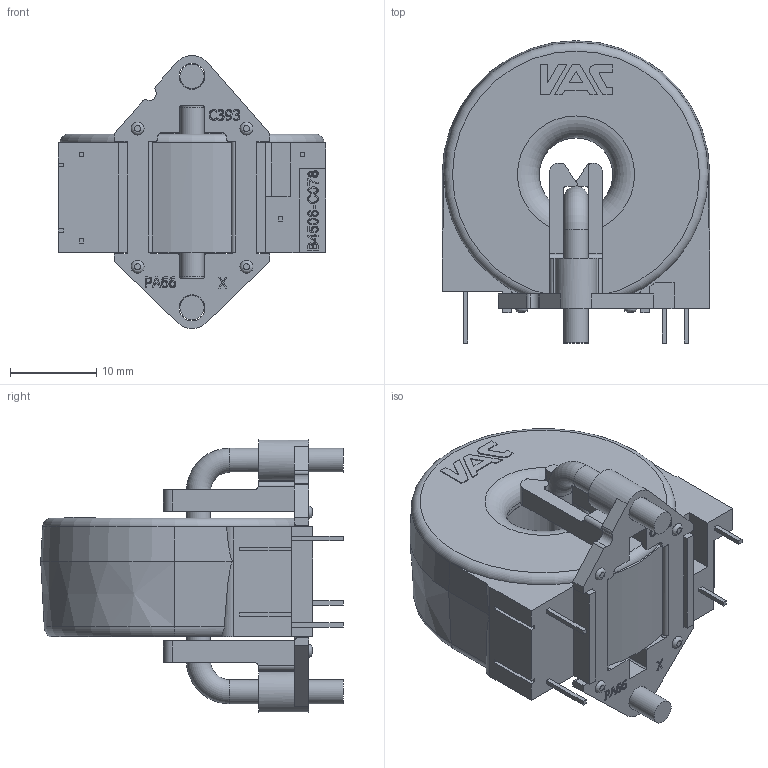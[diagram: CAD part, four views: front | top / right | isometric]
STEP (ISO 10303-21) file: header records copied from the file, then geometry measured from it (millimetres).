
FILE_DESCRIPTION(/* description */ (''),/* implementation_level */ '2;1');
FILE_NAME(/* name */ '4624-X505.stp',/* time_stamp */ '2024-06-28T11:50:28+02:00',/* author */ ('de041100'),/* organization */ (''),/* preprocessor_version */ 'ST-DEVELOPER v20',/* originating_system */ 'Autodesk Inventor 2024',/* authorisation */ '');
FILE_SCHEMA (('AUTOMOTIVE_DESIGN { 1 0 10303 214 3 1 1 }'));
Length unit declared in the file: millimetre
Products named in the file (1): 4624-X505
Bounding box: 31 x 35 x 31.59 mm (x, y, z)
Volume: 11170.2 mm3; surface area: 5425.8 mm2
Topology: 2 solids, 2 shells, 639 faces, 1731 edges, 1134 vertices
Faces by surface type: plane 304, bspline 208, cylinder 99, torus 22, cone 4, sphere 2
Full cylindrical faces by diameter (mm): 2.8 x3, 3 x2, 8.5 x1, 8.55 x1
Entity records: 21792 total; most frequent: CARTESIAN_POINT 6860, ORIENTED_EDGE 3466, DIRECTION 2421, EDGE_CURVE 1733, VERTEX_POINT 1134, LINE 1049, VECTOR 1049, EDGE_LOOP 693
